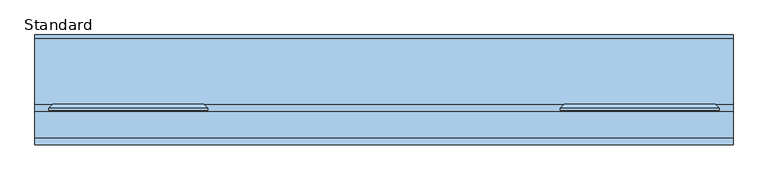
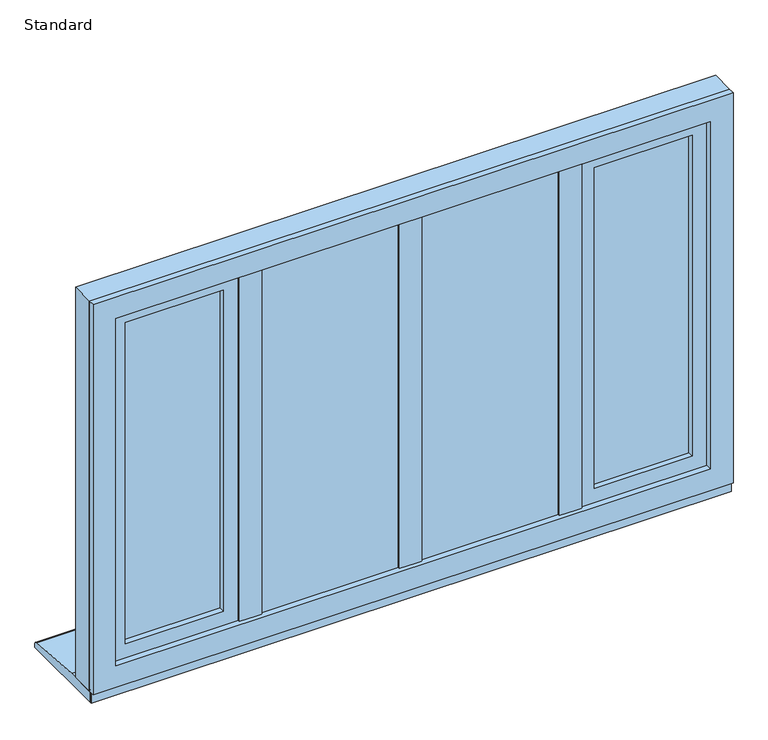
"""IFC4 building model written with IfcOpenShell, lengths in millimetres: window geometry, SMARTS_Alitherm600 : Standard."""

from ifc_helpers import new_model, si_unit, point, frame, frame_2d, origin, place, context, project, spatial, polyline, circle_curve, trimmed, segment, composite_curve, outline, extrude, faceted_brep, source, transform, mapped, element, save


def standard_14e9ef3b(model_context):
    return source(origin(), model_context, "Body", "SolidModel", [
        extrude(outline(polyline([(-379.4, 102.8298432), (-360.6, 102.8298432), (-360.6, 47.2458572), (-379.4, 47.2458572), (-379.4, 102.8298432)])), frame((0.0, 0.0, 670.8979117), z_axis=(0.0, 0.0, 1.0), x_axis=(1.0, 0.0, 0.0)), (0.0, 0.0, 1.0), 883.2041766),
        extrude(outline(polyline([(-395.9020883, 47.2458572), (-344.0979117, 47.2458572), (-344.0979117, 43.2798432), (-395.9020883, 43.2798432), (-395.9020883, 47.2458572)])), frame((0.0, 0.0, 687.4), z_axis=(0.0, 0.0, 1.0), x_axis=(1.0, 0.0, 0.0)), (0.0, 0.0, 1.0), 850.2),
        extrude(outline(polyline([(-9.4, 102.8298432), (9.4, 102.8298432), (9.4, 47.2458572), (-9.4, 47.2458572), (-9.4, 102.8298432)])), frame((0.0, 0.0, 670.8979117), z_axis=(0.0, 0.0, 1.0), x_axis=(1.0, 0.0, 0.0)), (0.0, 0.0, 1.0), 883.2041766),
        extrude(outline(polyline([(-25.9020883, 47.2458572), (25.9020883, 47.2458572), (25.9020883, 43.2798432), (-25.9020883, 43.2798432), (-25.9020883, 47.2458572)])), frame((0.0, 0.0, 687.4), z_axis=(0.0, 0.0, 1.0), x_axis=(1.0, 0.0, 0.0)), (0.0, 0.0, 1.0), 850.2),
        extrude(outline(polyline([(360.6, 102.8298432), (379.4, 102.8298432), (379.4, 47.2458572), (360.6, 47.2458572), (360.6, 102.8298432)])), frame((0.0, 0.0, 670.8979117), z_axis=(0.0, 0.0, 1.0), x_axis=(1.0, 0.0, 0.0)), (0.0, 0.0, 1.0), 883.2041766),
        extrude(outline(polyline([(344.0979117, 47.2458572), (395.9020883, 47.2458572), (395.9020883, 43.2798432), (344.0979117, 43.2798432), (344.0979117, 47.2458572)])), frame((0.0, 0.0, 687.4), z_axis=(0.0, 0.0, 1.0), x_axis=(1.0, 0.0, 0.0)), (0.0, 0.0, 1.0), 850.2),
        extrude(outline(polyline([(1516.6, -666.6), (708.4, -666.6), (708.4, -417.0), (1516.6, -417.0), (1516.6, -666.6)]), holes=[polyline([(1506.6, -427.0), (718.4, -427.0), (718.4, -656.6), (1506.6, -656.6), (1506.6, -427.0)])]), frame((0.0, 72.3211351, 0.0), z_axis=(0.0, 1.0, 0.0), x_axis=(0.0, 0.0, 1.0)), (0.0, 0.0, 1.0), 16.0),
        extrude(outline(polyline([(-666.6, 92.3211351), (-417.0, 92.3211351), (-417.0, 88.3211351), (-666.6, 88.3211351), (-666.6, 92.3211351)])), frame((0.0, 0.0, 708.4), z_axis=(0.0, 0.0, 1.0), x_axis=(1.0, 0.0, 0.0)), (0.0, 0.0, 1.0), 808.2),
        extrude(outline(polyline([(-666.6, 72.3211351), (-417.0, 72.3211351), (-417.0, 68.3211351), (-666.6, 68.3211351), (-666.6, 72.3211351)])), frame((0.0, 0.0, 708.4), z_axis=(0.0, 0.0, 1.0), x_axis=(1.0, 0.0, 0.0)), (0.0, 0.0, 1.0), 808.2),
        faceted_brep([(-416.6778853, 118.8818325, 1516.9221147), (-428.859976, 97.7818325, 1504.740024), (-654.740024, 97.7818325, 1504.740024), (-666.9221147, 118.8818325, 1516.9221147), (-411.9939506, 97.7818325, 1521.6060494), (-411.9939506, 118.8818325, 1521.6060494), (-671.6060494, 118.8818325, 1521.6060494), (-671.6060494, 97.7818325, 1521.6060494), (-654.740024, 97.7818325, 720.259976), (-666.9221147, 118.8818325, 708.0778853), (-671.6060494, 118.8818325, 703.3939506), (-671.6060494, 97.7818325, 703.3939506), (-428.859976, 97.7818325, 720.259976), (-416.6778853, 118.8818325, 708.0778853), (-411.9939506, 118.8818325, 703.3939506), (-411.9939506, 97.7818325, 703.3939506)], [[[0, 1, 2, 3]], [[4, 5, 6, 7]], [[3, 2, 8, 9]], [[7, 6, 10, 11]], [[9, 8, 12, 13]], [[11, 10, 14, 15]], [[13, 12, 1, 0]], [[5, 14, 10, 6], [3, 9, 13, 0]], [[15, 14, 5, 4]], [[7, 11, 15, 4], [1, 12, 8, 2]]]),
        extrude(outline(polyline([(681.552908, -693.447092), (681.552908, -390.152908), (1543.447092, -390.152908), (1543.447092, -693.447092), (681.552908, -693.447092)]), holes=[polyline([(1505.1, -655.1), (1505.1, -428.5), (719.9, -428.5), (719.9, -655.1), (1505.1, -655.1)])]), frame((0.0, 50.2798432, 0.0), z_axis=(0.0, 1.0, 0.0), x_axis=(0.0, 0.0, 1.0)), (0.0, 0.0, 1.0), 13.0853156),
        faceted_brep([(-671.6060494, 118.8818325, 1521.6060494), (-671.6060494, 63.3651588, 1521.6060494), (-671.6060494, 63.3651588, 703.3939506), (-671.6060494, 118.8818325, 703.3939506), (-411.9939506, 63.3651588, 703.3939506), (-411.9939506, 118.8818325, 703.3939506), (-411.9939506, 63.3651588, 1521.6060494), (-411.9939506, 118.8818325, 1521.6060494), (-710.3358988, 106.2818325, 1560.3358988), (-710.3358988, 110.3519831, 1560.3358988), (-710.3358988, 110.3519831, 664.6641012), (-710.3358988, 106.2818325, 664.6641012), (-373.2641012, 110.3519831, 664.6641012), (-373.2641012, 106.2818325, 664.6641012), (-373.2641012, 110.3519831, 1560.3358988), (-373.2641012, 106.2818325, 1560.3358988), (-693.7467657, 106.2818325, 1543.7467657), (-389.8532343, 106.2818325, 1543.7467657), (-389.8532343, 106.2818325, 681.2532343), (-693.7467657, 106.2818325, 681.2532343), (-701.8060494, 118.8818325, 1551.8060494), (-381.7939506, 118.8818325, 1551.8060494), (-381.7939506, 118.8818325, 673.1939506), (-701.8060494, 118.8818325, 673.1939506), (-693.7467657, 63.3651588, 1543.7467657), (-693.7467657, 63.3651588, 681.2532343), (-389.8532343, 63.3651588, 681.2532343), (-389.8532343, 63.3651588, 1543.7467657)], [[[0, 1, 2, 3]], [[3, 2, 4, 5]], [[5, 4, 6, 7]], [[7, 6, 1, 0]], [[8, 9, 10, 11]], [[11, 10, 12, 13]], [[13, 12, 14, 15]], [[11, 13, 15, 8], [16, 17, 18, 19]], [[15, 14, 9, 8]], [[20, 21, 22, 23], [3, 5, 7, 0]], [[24, 16, 19, 25]], [[25, 19, 18, 26]], [[26, 18, 17, 27]], [[25, 26, 27, 24], [1, 6, 4, 2]], [[27, 17, 16, 24]], [[9, 20, 23, 10]], [[10, 23, 22, 12]], [[12, 22, 21, 14]], [[14, 21, 20, 9]]]),
        extrude(outline(polyline([(-359.0, 77.7798432), (-11.0, 77.7798432), (-11.0, 73.7798432), (-359.0, 73.7798432), (-359.0, 77.7798432)])), frame((0.0, 0.0, 672.4), z_axis=(0.0, 0.0, 1.0), x_axis=(1.0, 0.0, 0.0)), (0.0, 0.0, 1.0), 880.2),
        extrude(outline(polyline([(-359.0, 57.7798432), (-11.0, 57.7798432), (-11.0, 53.7798432), (-359.0, 53.7798432), (-359.0, 57.7798432)])), frame((0.0, 0.0, 672.4), z_axis=(0.0, 0.0, 1.0), x_axis=(1.0, 0.0, 0.0)), (0.0, 0.0, 1.0), 880.2),
        extrude(outline(polyline([(1552.6, -359.0), (672.4, -359.0), (672.4, -11.0), (1552.6, -11.0), (1552.6, -359.0)]), holes=[polyline([(1542.6, -21.0), (682.4, -21.0), (682.4, -349.0), (1542.6, -349.0), (1542.6, -21.0)])]), frame((0.0, 57.7798432, 0.0), z_axis=(0.0, 1.0, 0.0), x_axis=(0.0, 0.0, 1.0)), (0.0, 0.0, 1.0), 16.0),
        faceted_brep([(-355.8160653, 102.7798432, 1549.4160653), (-343.6339746, 81.6798432, 1537.2339746), (-343.6339746, 81.6798432, 687.7660254), (-355.8160653, 102.7798432, 675.5839347), (-26.3660254, 81.6798432, 687.7660254), (-14.1839347, 102.7798432, 675.5839347), (-26.3660254, 81.6798432, 1537.2339746), (-14.1839347, 102.7798432, 1549.4160653), (-9.5, 81.6798432, 1554.1), (-9.5, 102.7798432, 1554.1), (-360.5, 102.7798432, 1554.1), (-360.5, 81.6798432, 1554.1), (-360.5, 102.7798432, 670.9), (-360.5, 81.6798432, 670.9), (-9.5, 102.7798432, 670.9), (-9.5, 81.6798432, 670.9)], [[[0, 1, 2, 3]], [[3, 2, 4, 5]], [[5, 4, 6, 7]], [[7, 6, 1, 0]], [[8, 9, 10, 11]], [[11, 10, 12, 13]], [[13, 12, 14, 15]], [[9, 14, 12, 10], [0, 3, 5, 7]], [[15, 14, 9, 8]], [[11, 13, 15, 8], [6, 4, 2, 1]]]),
        extrude(outline(polyline([(11.0, 77.7798432), (359.0, 77.7798432), (359.0, 73.7798432), (11.0, 73.7798432), (11.0, 77.7798432)])), frame((0.0, 0.0, 672.4), z_axis=(0.0, 0.0, 1.0), x_axis=(1.0, 0.0, 0.0)), (0.0, 0.0, 1.0), 880.2),
        extrude(outline(polyline([(11.0, 57.7798432), (359.0, 57.7798432), (359.0, 53.7798432), (11.0, 53.7798432), (11.0, 57.7798432)])), frame((0.0, 0.0, 672.4), z_axis=(0.0, 0.0, 1.0), x_axis=(1.0, 0.0, 0.0)), (0.0, 0.0, 1.0), 880.2),
        extrude(outline(polyline([(1552.6, 11.0), (672.4, 11.0), (672.4, 359.0), (1552.6, 359.0), (1552.6, 11.0)]), holes=[polyline([(1542.6, 349.0), (682.4, 349.0), (682.4, 21.0), (1542.6, 21.0), (1542.6, 349.0)])]), frame((0.0, 57.7798432, 0.0), z_axis=(0.0, 1.0, 0.0), x_axis=(0.0, 0.0, 1.0)), (0.0, 0.0, 1.0), 16.0),
        faceted_brep([(14.1839347, 102.7798432, 1549.4160653), (26.3660254, 81.6798432, 1537.2339746), (26.3660254, 81.6798432, 687.7660254), (14.1839347, 102.7798432, 675.5839347), (343.6339746, 81.6798432, 687.7660254), (355.8160653, 102.7798432, 675.5839347), (343.6339746, 81.6798432, 1537.2339746), (355.8160653, 102.7798432, 1549.4160653), (360.5, 81.6798432, 1554.1), (360.5, 102.7798432, 1554.1), (9.5, 102.7798432, 1554.1), (9.5, 81.6798432, 1554.1), (9.5, 102.7798432, 670.9), (9.5, 81.6798432, 670.9), (360.5, 102.7798432, 670.9), (360.5, 81.6798432, 670.9)], [[[0, 1, 2, 3]], [[3, 2, 4, 5]], [[5, 4, 6, 7]], [[7, 6, 1, 0]], [[8, 9, 10, 11]], [[11, 10, 12, 13]], [[13, 12, 14, 15]], [[9, 14, 12, 10], [0, 3, 5, 7]], [[15, 14, 9, 8]], [[11, 13, 15, 8], [6, 4, 2, 1]]]),
        extrude(outline(polyline([(1590.0, 740.0), (1590.0, -740.0), (635.0, -740.0), (635.0, 740.0), (1590.0, 740.0)]), holes=[polyline([(670.85, 704.15), (670.85, -704.15), (1554.15, -704.15), (1554.15, 704.15), (670.85, 704.15)])]), frame((0.0, 47.2798427, 0.0), z_axis=(0.0, 1.0, 0.0), x_axis=(0.0, 0.0, 1.0)), (0.0, 0.0, 1.0), 55.5500006),
        extrude(outline(polyline([(1590.0, 740.0), (1590.0, -740.0), (635.0, -740.0), (635.0, 740.0), (1590.0, 740.0)]), holes=[polyline([(687.35, 687.65), (687.35, -687.65), (1537.65, -687.65), (1537.65, 687.65), (687.35, 687.65)])]), frame((0.0, 32.8298432, 0.0), z_axis=(0.0, 1.0, 0.0), x_axis=(0.0, 0.0, 1.0)), (0.0, 0.0, 1.0), 14.4499994),
        extrude(outline(polyline([(1516.6, 417.0), (708.4, 417.0), (708.4, 666.6), (1516.6, 666.6), (1516.6, 417.0)]), holes=[polyline([(1506.6, 656.6), (718.4, 656.6), (718.4, 427.0), (1506.6, 427.0), (1506.6, 656.6)])]), frame((0.0, 72.3211351, 0.0), z_axis=(0.0, 1.0, 0.0), x_axis=(0.0, 0.0, 1.0)), (0.0, 0.0, 1.0), 16.0),
        extrude(outline(polyline([(417.0, 92.3211351), (666.6, 92.3211351), (666.6, 88.3211351), (417.0, 88.3211351), (417.0, 92.3211351)])), frame((0.0, 0.0, 708.4), z_axis=(0.0, 0.0, 1.0), x_axis=(1.0, 0.0, 0.0)), (0.0, 0.0, 1.0), 808.2),
        extrude(outline(polyline([(417.0, 72.3211351), (666.6, 72.3211351), (666.6, 68.3211351), (417.0, 68.3211351), (417.0, 72.3211351)])), frame((0.0, 0.0, 708.4), z_axis=(0.0, 0.0, 1.0), x_axis=(1.0, 0.0, 0.0)), (0.0, 0.0, 1.0), 808.2),
        faceted_brep([(666.9221147, 118.8818325, 1516.9221147), (654.740024, 97.7818325, 1504.740024), (428.859976, 97.7818325, 1504.740024), (416.6778853, 118.8818325, 1516.9221147), (671.6060494, 97.7818325, 1521.6060494), (671.6060494, 118.8818325, 1521.6060494), (411.9939506, 118.8818325, 1521.6060494), (411.9939506, 97.7818325, 1521.6060494), (428.859976, 97.7818325, 720.259976), (416.6778853, 118.8818325, 708.0778853), (411.9939506, 118.8818325, 703.3939506), (411.9939506, 97.7818325, 703.3939506), (654.740024, 97.7818325, 720.259976), (666.9221147, 118.8818325, 708.0778853), (671.6060494, 118.8818325, 703.3939506), (671.6060494, 97.7818325, 703.3939506)], [[[0, 1, 2, 3]], [[4, 5, 6, 7]], [[3, 2, 8, 9]], [[7, 6, 10, 11]], [[9, 8, 12, 13]], [[11, 10, 14, 15]], [[13, 12, 1, 0]], [[5, 14, 10, 6], [3, 9, 13, 0]], [[15, 14, 5, 4]], [[7, 11, 15, 4], [1, 12, 8, 2]]]),
        extrude(outline(polyline([(681.552908, 390.152908), (681.552908, 693.447092), (1543.447092, 693.447092), (1543.447092, 390.152908), (681.552908, 390.152908)]), holes=[polyline([(1505.1, 428.5), (1505.1, 655.1), (719.9, 655.1), (719.9, 428.5), (1505.1, 428.5)])]), frame((0.0, 50.2798432, 0.0), z_axis=(0.0, 1.0, 0.0), x_axis=(0.0, 0.0, 1.0)), (0.0, 0.0, 1.0), 13.0853156),
        faceted_brep([(411.9939506, 118.8818325, 1521.6060494), (411.9939506, 63.3651588, 1521.6060494), (411.9939506, 63.3651588, 703.3939506), (411.9939506, 118.8818325, 703.3939506), (671.6060494, 63.3651588, 703.3939506), (671.6060494, 118.8818325, 703.3939506), (671.6060494, 63.3651588, 1521.6060494), (671.6060494, 118.8818325, 1521.6060494), (373.2641012, 106.2818325, 1560.3358988), (373.2641012, 110.3519831, 1560.3358988), (373.2641012, 110.3519831, 664.6641012), (373.2641012, 106.2818325, 664.6641012), (710.3358988, 110.3519831, 664.6641012), (710.3358988, 106.2818325, 664.6641012), (710.3358988, 110.3519831, 1560.3358988), (710.3358988, 106.2818325, 1560.3358988), (389.8532343, 106.2818325, 1543.7467657), (693.7467657, 106.2818325, 1543.7467657), (693.7467657, 106.2818325, 681.2532343), (389.8532343, 106.2818325, 681.2532343), (381.7939506, 118.8818325, 1551.8060494), (701.8060494, 118.8818325, 1551.8060494), (701.8060494, 118.8818325, 673.1939506), (381.7939506, 118.8818325, 673.1939506), (389.8532343, 63.3651588, 1543.7467657), (389.8532343, 63.3651588, 681.2532343), (693.7467657, 63.3651588, 681.2532343), (693.7467657, 63.3651588, 1543.7467657)], [[[0, 1, 2, 3]], [[3, 2, 4, 5]], [[5, 4, 6, 7]], [[7, 6, 1, 0]], [[8, 9, 10, 11]], [[11, 10, 12, 13]], [[13, 12, 14, 15]], [[11, 13, 15, 8], [16, 17, 18, 19]], [[15, 14, 9, 8]], [[20, 21, 22, 23], [3, 5, 7, 0]], [[24, 16, 19, 25]], [[25, 19, 18, 26]], [[26, 18, 17, 27]], [[25, 26, 27, 24], [1, 6, 4, 2]], [[27, 17, 16, 24]], [[9, 20, 23, 10]], [[10, 23, 22, 12]], [[12, 22, 21, 14]], [[14, 21, 20, 9]]]),
        extrude(outline(polyline([(740.0, 43.2798432), (740.0, 40.7798432), (-740.0, 40.7798432), (-740.0, 43.2798432), (740.0, 43.2798432)])), frame((0.0, 0.0, 610.0), z_axis=(0.0, 0.0, 1.0), x_axis=(1.0, 0.0, 0.0)), (0.0, 0.0, 1.0), 31.0),
        extrude(outline(composite_curve([segment(polyline([(265.7798432, 610.0), (43.2798432, 610.0), (43.2798432, 635.0), (118.7798432, 635.0), (258.4770891, 625.9276664)]), True, "CONTINUOUS"), segment(trimmed(circle_curve(frame_2d((257.7798432, 617.9581088)), 8.0), [point((258.4770891, 625.9276664))], [point((265.7798432, 617.9581088))], False, "CARTESIAN"), True, "CONTINUOUS"), segment(polyline([(265.7798432, 617.9581088), (265.7798432, 610.0)]), True, "CONTINUOUS")], self_intersect=False)), frame((-740.0, 0.0, 0.0), z_axis=(1.0, 0.0, 0.0), x_axis=(0.0, 1.0, 0.0)), (0.0, 0.0, 1.0), 1480.0),
    ])


if __name__ == "__main__":
    model = new_model("IFC4")
    model_context = context("Model", 3, world=origin())
    ifc_project = project(units=[si_unit("LENGTHUNIT", "METRE", prefix="MILLI")], contexts=[model_context])
    site = spatial("IfcSite", under=ifc_project)
    building = spatial("IfcBuilding", under=site)
    placement = place(None, origin())
    standard_shape = standard_14e9ef3b(model_context)
    element("IfcWindow", 1, ObjectType="SMARTS_Alitherm600 : Standard", at=placement, inside=building, context=model_context, shape_type="MappedRepresentation", body=[
        mapped(standard_shape, transform((0.0, 0.0, 0.0), x_axis=(1.0, 0.0, 0.0), y_axis=(0.0, 1.0, 0.0), z_axis=(0.0, 0.0, 1.0))),
    ])
    save(model, "model.ifc")
